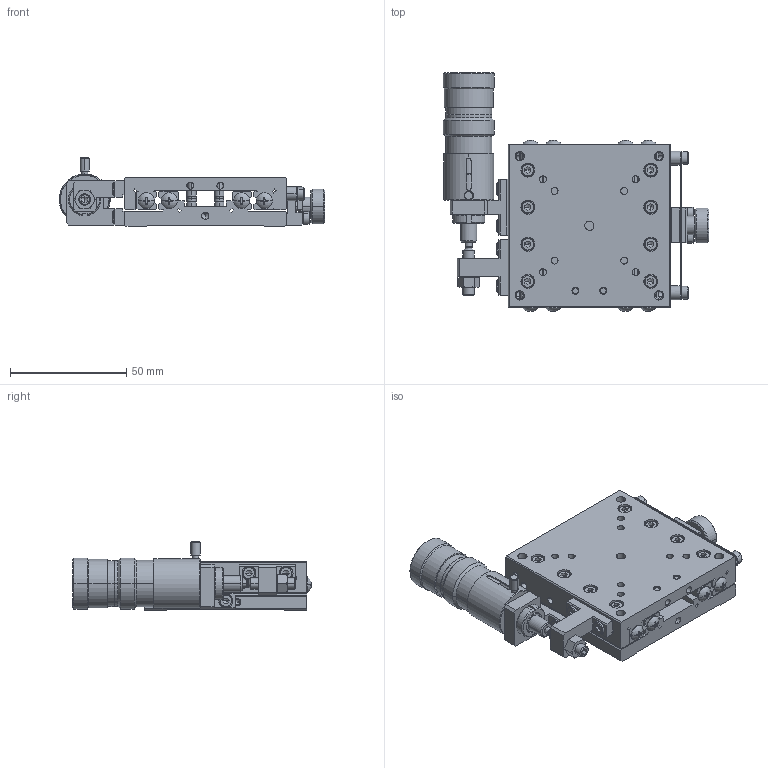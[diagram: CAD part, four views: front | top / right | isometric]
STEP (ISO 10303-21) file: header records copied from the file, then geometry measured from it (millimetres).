
FILE_DESCRIPTION (( 'STEP AP214' ), '1' );
FILE_NAME ('XM07F-S3-R-CL.STEP', '2009-05-11T06:15:43', ( ' ' ), ( ' ' ), 'SwSTEP 2.0', 'SolidWorks 2008', '' );
FILE_SCHEMA (( 'AUTOMOTIVE_DESIGN' ));
Length unit declared in the file: millimetre
Products named in the file (3): 001550-1023(3D)-9; 001550-1011(3D)-9; XM07F-S3-R-CL
Assembly tree (2 placements, depth 2):
  XM07F-S3-R-CL
    001550-1023(3D)-9
    001550-1011(3D)-9
Bounding box: 114.5 x 102.87 x 29.5 mm (x, y, z)
Volume: 109329.3 mm3; surface area: 53664.6 mm2
Topology: 2 solids, 43 shells, 1945 faces, 4692 edges, 2824 vertices
Faces by surface type: plane 903, cylinder 591, cone 417, sphere 18, torus 16
Entity records: 56842 total; most frequent: CARTESIAN_POINT 11087, DIRECTION 10049, ORIENTED_EDGE 9188, EDGE_CURVE 4594, AXIS2_PLACEMENT_3D 3832, VERTEX_POINT 2824, LINE 2385, VECTOR 2385
